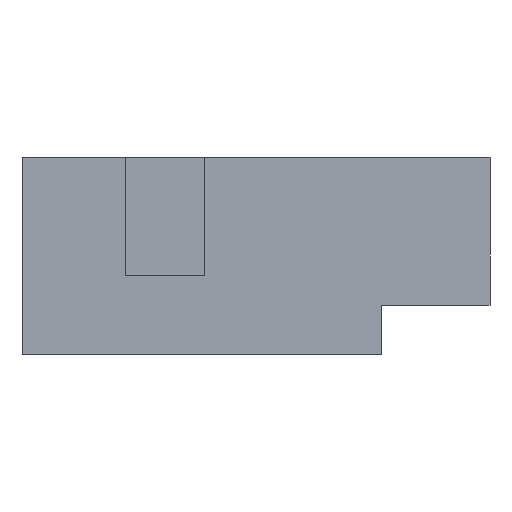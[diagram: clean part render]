
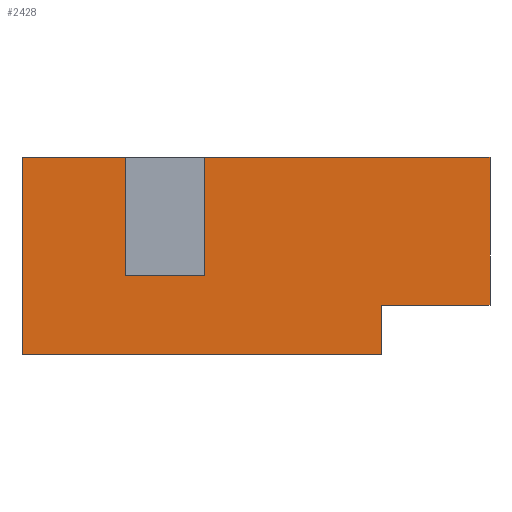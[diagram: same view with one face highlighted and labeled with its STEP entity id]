
A CAD part, front view. The second image highlights one B-rep face of the part: STEP entity #2428.
In plain terms, the highlighted planar face has unit normal (0, -1, 0).
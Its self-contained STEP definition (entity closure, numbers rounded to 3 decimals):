
#27=DIRECTION('',(1.,0.,0.));
#28=VECTOR('',#27,11.);
#29=CARTESIAN_POINT('',(36.5,0.,0.));
#30=LINE('',#29,#28);
#302=DIRECTION('',(0.,0.,-1.));
#303=VECTOR('',#302,20.);
#304=CARTESIAN_POINT('',(0.,0.,15.));
#305=LINE('',#304,#303);
#400=DIRECTION('',(1.,0.,0.));
#401=VECTOR('',#400,10.5);
#402=CARTESIAN_POINT('',(0.,0.,15.));
#403=LINE('',#402,#401);
#416=DIRECTION('',(1.,0.,0.));
#417=VECTOR('',#416,29.);
#418=CARTESIAN_POINT('',(18.5,0.,15.));
#419=LINE('',#418,#417);
#504=DIRECTION('',(0.,0.,-1.));
#505=VECTOR('',#504,5.);
#506=CARTESIAN_POINT('',(36.5,0.,0.));
#507=LINE('',#506,#505);
#508=DIRECTION('',(0.,0.,-1.));
#509=VECTOR('',#508,12.);
#510=CARTESIAN_POINT('',(10.5,0.,15.));
#511=LINE('',#510,#509);
#512=DIRECTION('',(1.,0.,0.));
#513=VECTOR('',#512,8.);
#514=CARTESIAN_POINT('',(10.5,0.,3.));
#515=LINE('',#514,#513);
#516=DIRECTION('',(0.,0.,-1.));
#517=VECTOR('',#516,12.);
#518=CARTESIAN_POINT('',(18.5,0.,15.));
#519=LINE('',#518,#517);
#544=DIRECTION('',(-1.,0.,0.));
#545=VECTOR('',#544,36.5);
#546=CARTESIAN_POINT('',(36.5,0.,-5.));
#547=LINE('',#546,#545);
#1247=DIRECTION('',(0.,0.,1.));
#1248=VECTOR('',#1247,15.);
#1249=CARTESIAN_POINT('',(47.5,0.,0.));
#1250=LINE('',#1249,#1248);
#1551=CARTESIAN_POINT('',(47.5,0.,0.));
#1553=VERTEX_POINT('',#1551);
#1557=CARTESIAN_POINT('',(47.5,0.,15.));
#1559=VERTEX_POINT('',#1557);
#1563=CARTESIAN_POINT('',(0.,0.,15.));
#1564=VERTEX_POINT('',#1563);
#1621=CARTESIAN_POINT('',(18.5,0.,15.));
#1623=VERTEX_POINT('',#1621);
#1625=CARTESIAN_POINT('',(10.5,0.,15.));
#1627=VERTEX_POINT('',#1625);
#1629=CARTESIAN_POINT('',(18.5,0.,3.));
#1630=VERTEX_POINT('',#1629);
#1631=CARTESIAN_POINT('',(10.5,0.,3.));
#1632=VERTEX_POINT('',#1631);
#1638=CARTESIAN_POINT('',(36.5,0.,-5.));
#1640=VERTEX_POINT('',#1638);
#1641=CARTESIAN_POINT('',(0.,0.,-5.));
#1642=VERTEX_POINT('',#1641);
#1649=CARTESIAN_POINT('',(36.5,0.,0.));
#1650=VERTEX_POINT('',#1649);
#2406=CARTESIAN_POINT('',(0.,0.,0.));
#2407=DIRECTION('',(0.,-1.,0.));
#2408=DIRECTION('',(1.,0.,0.));
#2409=AXIS2_PLACEMENT_3D('',#2406,#2407,#2408);
#2410=PLANE('',#2409);
#2411=ORIENTED_EDGE('',*,*,#2016,.F.);
#2413=ORIENTED_EDGE('',*,*,#2412,.T.);
#2415=ORIENTED_EDGE('',*,*,#2414,.T.);
#2416=ORIENTED_EDGE('',*,*,#2214,.F.);
#2417=ORIENTED_EDGE('',*,*,#2331,.T.);
#2419=ORIENTED_EDGE('',*,*,#2418,.T.);
#2421=ORIENTED_EDGE('',*,*,#2420,.T.);
#2422=ORIENTED_EDGE('',*,*,#2397,.F.);
#2423=ORIENTED_EDGE('',*,*,#2338,.T.);
#2425=ORIENTED_EDGE('',*,*,#2424,.F.);
#2426=EDGE_LOOP('',(#2411,#2413,#2415,#2416,#2417,#2419,#2421,#2422,#2423,
#2425));
#2427=FACE_OUTER_BOUND('',#2426,.F.);
#2428=ADVANCED_FACE('',(#2427),#2410,.T.);
#2016=EDGE_CURVE('',#1650,#1553,#30,.T.);
#2214=EDGE_CURVE('',#1564,#1642,#305,.T.);
#2331=EDGE_CURVE('',#1564,#1627,#403,.T.);
#2338=EDGE_CURVE('',#1623,#1559,#419,.T.);
#2397=EDGE_CURVE('',#1623,#1630,#519,.T.);
#2412=EDGE_CURVE('',#1650,#1640,#507,.T.);
#2414=EDGE_CURVE('',#1640,#1642,#547,.T.);
#2418=EDGE_CURVE('',#1627,#1632,#511,.T.);
#2420=EDGE_CURVE('',#1632,#1630,#515,.T.);
#2424=EDGE_CURVE('',#1553,#1559,#1250,.T.);
